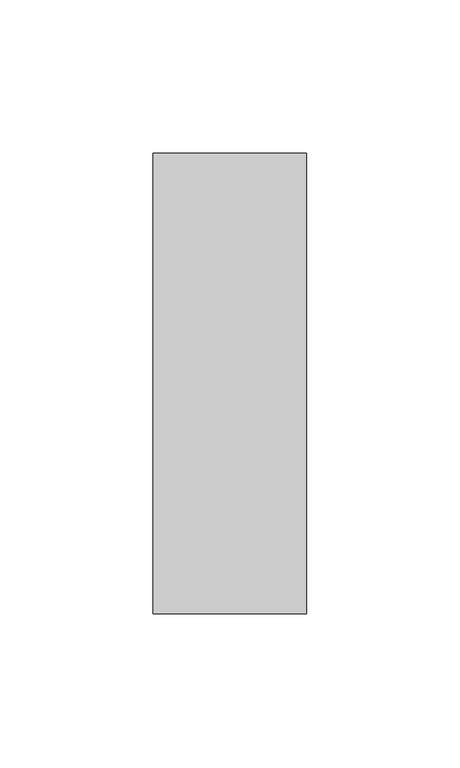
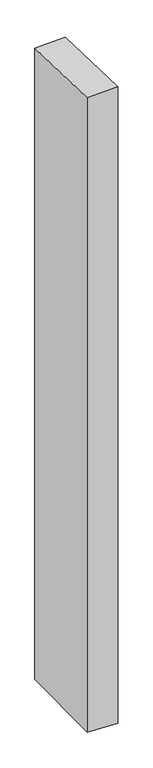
"""IFC4 building model written with IfcOpenShell, lengths in millimetres: member geometry, Прямоугольный импост : 50 x 150 мм."""

import ifcopenshell
import ifcopenshell.guid

model = None  # the IFC model being written
_history = None  # IfcOwnerHistory: only IFC2X3 demands one
_inside = {}  # id of a spatial element -> (the spatial element, [elements in it])
_under = {}  # id of a project, library or spatial element -> (it, [spatial elements below it])
_declared = {}  # id of a project -> (the project, [libraries it declares])
_typed = {}  # id of a type object -> (the type object, [elements of that type])
_made_of = {}  # id of a material, layer set ... -> (it, [elements and type objects made of it])


def new_model(schema):
    """Start an empty IFC model of exactly this schema.

    Asked for "IFC4X3", IfcOpenShell would pick the latest addendum, in which some entities
    have other attributes; the version numbers below select the first issue.
    IFC2X3 requires an IfcOwnerHistory on every rooted entity: one is made here for all.
    """
    global model, _history
    if schema == "IFC4X3":
        model = ifcopenshell.file(schema_version=(4, 3, 0, 0))
    else:
        model = ifcopenshell.file(schema=schema)
    _inside.clear()
    _under.clear()
    _declared.clear()
    _typed.clear()
    _made_of.clear()
    _history = None
    if model.schema == "IFC2X3":
        org = make("IfcOrganization", Name="unknown")
        user = make(
            "IfcPersonAndOrganization",
            ThePerson=make("IfcPerson", FamilyName="unknown"),
            TheOrganization=org,
        )
        app = make(
            "IfcApplication",
            ApplicationDeveloper=org,
            Version="unknown",
            ApplicationFullName="unknown",
            ApplicationIdentifier="unknown",
        )
        _history = make(
            "IfcOwnerHistory",
            OwningUser=user,
            OwningApplication=app,
            ChangeAction="ADDED",
            CreationDate=0,
        )
    return model


def make(cls, **values):
    """One entity of the class cls with the attributes given. An attribute that is None is left unset."""
    return model.create_entity(
        cls, **{name: value for name, value in values.items() if value is not None}
    )


def rooted(cls, **values):
    """An entity with a GlobalId (a new one), such as an element, a storey or a relation."""
    return make(cls, GlobalId=ifcopenshell.guid.new(), OwnerHistory=_history, **values)


def si_unit(unit_type, name, prefix=None):
    """IfcSIUnit, for example si_unit("LENGTHUNIT", "METRE", prefix="MILLI")."""
    return make("IfcSIUnit", UnitType=unit_type, Prefix=prefix, Name=name)


def assignment(units):
    """IfcUnitAssignment: the units of a project."""
    return None if units is None else make("IfcUnitAssignment", Units=units)


def point(xyz):
    """IfcCartesianPoint."""
    return None if xyz is None else make("IfcCartesianPoint", Coordinates=xyz)


def direction(xyz):
    """IfcDirection."""
    return None if xyz is None else make("IfcDirection", DirectionRatios=xyz)


def frame(location, z_axis=None, x_axis=None):
    """IfcAxis2Placement3D, a coordinate frame: its origin and axes. An axis left out is left unset."""
    return make(
        "IfcAxis2Placement3D",
        Location=point(location),
        Axis=direction(z_axis),
        RefDirection=direction(x_axis),
    )


def origin():
    """The frame at (0, 0, 0) with its axes left unset."""
    return frame((0.0, 0.0, 0.0))


def place(relative_to, where):
    """IfcLocalPlacement: puts the frame where relative to a parent placement (None: the world)."""
    return make(
        "IfcLocalPlacement", PlacementRelTo=relative_to, RelativePlacement=where
    )


def context(
    kind, dimensions, precision=None, world=None, true_north=None, identifier=None
):
    """IfcGeometricRepresentationContext, for example the 3D "Model" context."""
    return make(
        "IfcGeometricRepresentationContext",
        ContextIdentifier=identifier,
        ContextType=kind,
        CoordinateSpaceDimension=dimensions,
        Precision=precision,
        WorldCoordinateSystem=world,
        TrueNorth=true_north,
    )


def project(units=None, contexts=None):
    """IfcProject with its units and contexts."""
    return rooted(
        "IfcProject",
        Name="project",
        RepresentationContexts=contexts,
        UnitsInContext=assignment(units),
    )


def spatial(cls, under=None, at=None, **own):
    """A site, building, storey or space (cls), placed at a placement, below another one or the project."""
    s = rooted(cls, ObjectPlacement=at, **own)
    if under is not None:
        _under.setdefault(under.id(), (under, []))[1].append(s)
    return s


def faces_of(points, faces, orient=None, outer=None):
    """IfcFace entities. A face is a list of loops; a loop is a list of indices into points, from 0.

    orient and outer hold one flag for each loop. By default every Orientation is true, the
    first loop of a face is its IfcFaceOuterBound and the others are IfcFaceBound.
    """
    made = []
    for i, loops in enumerate(faces):
        bounds = []
        for j, loop in enumerate(loops):
            is_outer = j == 0 if outer is None else outer[i][j]
            bounds.append(
                make(
                    "IfcFaceOuterBound" if is_outer else "IfcFaceBound",
                    Bound=make("IfcPolyLoop", Polygon=[points[k] for k in loop]),
                    Orientation=True if orient is None else orient[i][j],
                )
            )
        made.append(make("IfcFace", Bounds=bounds))
    return made


def faceted_brep(points, faces, orient=None, outer=None, voids=None):
    """IfcFacetedBrep: a solid bounded by flat faces; with voids (closed shells), ...WithVoids."""
    shared = [point(p) for p in points]
    hull = make("IfcClosedShell", CfsFaces=faces_of(shared, faces, orient, outer))
    if voids is None:
        return make("IfcFacetedBrep", Outer=hull)
    return make(
        "IfcFacetedBrepWithVoids",
        Outer=hull,
        Voids=[
            make(cls, CfsFaces=faces_of(shared, fs, o, b)) for cls, fs, o, b in voids
        ],
    )


def shape(context_of_items, identifier, shape_type, items):
    """IfcShapeRepresentation: the items that make up one representation, for example the "Body"."""
    return make(
        "IfcShapeRepresentation",
        ContextOfItems=context_of_items,
        RepresentationIdentifier=identifier,
        RepresentationType=shape_type,
        Items=items,
    )


def source(mapping_origin, context_of_items, identifier, shape_type, items):
    """IfcRepresentationMap: a shape defined once, which mapped items show again and again."""
    return make(
        "IfcRepresentationMap",
        MappingOrigin=mapping_origin,
        MappedRepresentation=shape(context_of_items, identifier, shape_type, items),
    )


def transform(
    local_origin,
    x_axis=None,
    y_axis=None,
    z_axis=None,
    scale=None,
    scale2=None,
    scale3=None,
    uniform=True,
):
    """IfcCartesianTransformationOperator3D, or its non-uniform kind. x_axis, y_axis, z_axis: its Axis1, 2, 3."""
    if uniform:
        return make(
            "IfcCartesianTransformationOperator3D",
            Axis1=direction(x_axis),
            Axis2=direction(y_axis),
            LocalOrigin=point(local_origin),
            Scale=scale,
            Axis3=direction(z_axis),
        )
    return make(
        "IfcCartesianTransformationOperator3DnonUniform",
        Axis1=direction(x_axis),
        Axis2=direction(y_axis),
        LocalOrigin=point(local_origin),
        Scale=scale,
        Axis3=direction(z_axis),
        Scale2=scale2,
        Scale3=scale3,
    )


def mapped(mapping_source, mapping_target):
    """IfcMappedItem: shows the shape of a source again, moved by a transform."""
    return make(
        "IfcMappedItem", MappingSource=mapping_source, MappingTarget=mapping_target
    )


def made_of(thing, what):
    """Note that an element or type object is made of a material, layer set ...; save() writes the relation."""
    if what is not None:
        _made_of.setdefault(what.id(), (what, []))[1].append(thing)
    return thing


def element(
    cls,
    number,
    at=None,
    inside=None,
    cuts=None,
    type_object=None,
    material=None,
    context=None,
    identifier="Body",
    shape_type=None,
    held_by="IfcProductDefinitionShape",
    body=None,
    shapes=None,
    **own,
):
    """One element of the class cls, such as IfcWall. Its Tag is "e" and its number.

    at: its placement. inside: the storey or other place that contains it. cuts: it is an
    opening in that element (IfcRelVoidsElement). A single representation is given by context,
    identifier, shape_type and body (its items); several are given by shapes. held_by: the class
    of the entity that holds the representations. save() writes the other relations.
    """
    e = rooted(cls, Tag="e%d" % number, ObjectPlacement=at, **own)
    if body is not None:
        shapes = [shape(context, identifier, shape_type, body)]
    if shapes is not None:
        e.Representation = make(held_by, Representations=shapes)
    if inside is not None:
        _inside.setdefault(inside.id(), (inside, []))[1].append(e)
    if cuts is not None:
        rooted(
            "IfcRelVoidsElement", RelatingBuildingElement=cuts, RelatedOpeningElement=e
        )
    if type_object is not None:
        _typed.setdefault(type_object.id(), (type_object, []))[1].append(e)
    return made_of(e, material)


def aggregate(whole, parts):
    """IfcRelAggregates: a whole, such as a stair, and the parts it consists of."""
    return rooted("IfcRelAggregates", RelatingObject=whole, RelatedObjects=parts)


def save(model, path):
    """Write the relations noted so far, then the file.

    IfcRelAggregates (storeys below a building ...), IfcRelContainedInSpatialStructure (elements
    in a storey), IfcRelDefinesByType, IfcRelAssociatesMaterial and IfcRelDeclares: one each for
    every whole, place, type object, material and project.
    """
    for whole, parts in _under.values():
        aggregate(whole, parts)
    for where, things in _inside.values():
        rooted(
            "IfcRelContainedInSpatialStructure",
            RelatedElements=things,
            RelatingStructure=where,
        )
    for kind, things in _typed.values():
        rooted("IfcRelDefinesByType", RelatedObjects=things, RelatingType=kind)
    for what, things in _made_of.values():
        rooted("IfcRelAssociatesMaterial", RelatedObjects=things, RelatingMaterial=what)
    for by, libraries in _declared.values():
        rooted("IfcRelDeclares", RelatingContext=by, RelatedDefinitions=libraries)
    model.write(path)


def member_9c91102b(model_context):
    return source(origin(), model_context, "Body", "Brep", [
        faceted_brep([(-25.0, 75.0, -2.7087368), (25.0, 75.0, -1.169407), (25.0, 75.0, -1107.4654376), (-25.0, 75.0, -1105.74903), (-25.0, -75.0, 1.169407), (-25.0, -75.0, -1107.0254176), (25.0, -75.0, 2.7087368), (25.0, -75.0, -1108.7418251)], [[[0, 1, 2, 3]], [[4, 0, 3, 5]], [[6, 4, 5, 7]], [[1, 6, 7, 2]], [[1, 0, 4, 6]], [[2, 7, 5, 3]]]),
    ])


if __name__ == "__main__":
    model = new_model("IFC4")
    model_context = context("Model", 3, world=origin())
    ifc_project = project(units=[si_unit("LENGTHUNIT", "METRE", prefix="MILLI")], contexts=[model_context])
    site = spatial("IfcSite", under=ifc_project)
    building = spatial("IfcBuilding", under=site)
    placement = place(None, origin())
    member_shape = member_9c91102b(model_context)
    element("IfcMember", 1, ObjectType="Прямоугольный импост : 50 x 150 мм", at=placement, inside=building, context=model_context, shape_type="MappedRepresentation", body=[
        mapped(member_shape, transform((0.0, 0.0, 0.0), x_axis=(1.0, 0.0, 0.0), y_axis=(0.0, 1.0, 0.0), z_axis=(0.0, 0.0, 1.0))),
    ])
    save(model, "model.ifc")
